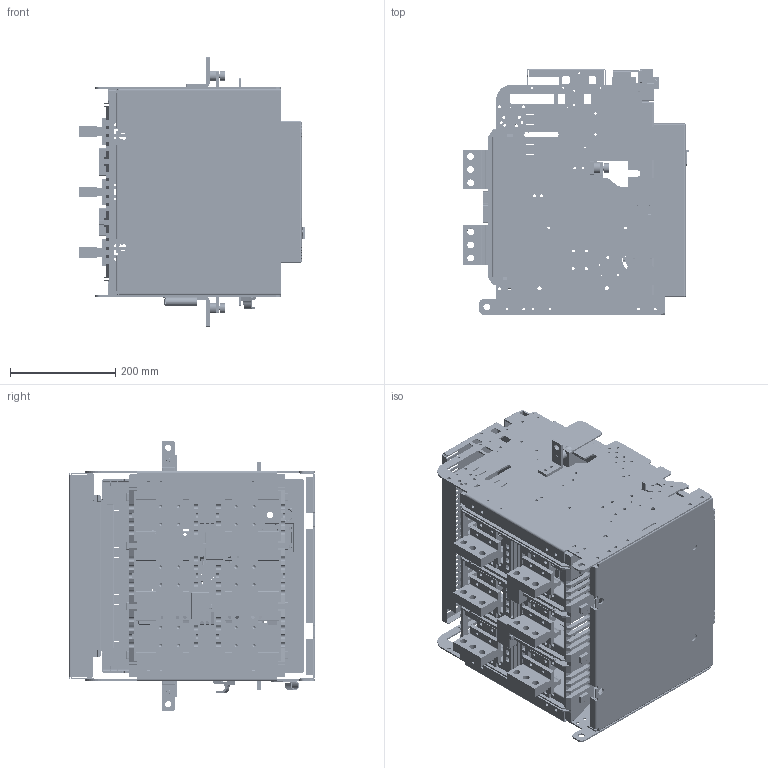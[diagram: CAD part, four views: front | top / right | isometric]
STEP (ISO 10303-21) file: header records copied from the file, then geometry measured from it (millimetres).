
FILE_DESCRIPTION((''),'2;1');
FILE_NAME('B203_253V_ASM','2017-01-31T',('HHI'),(''),'PRO/ENGINEER BY PARAMETRIC TECHNOLOGY CORPORATION, 2012453','PRO/ENGINEER BY PARAMETRIC TECHNOLOGY CORPORATION, 2012453','');
FILE_SCHEMA(('CONFIG_CONTROL_DESIGN'));
Products named in the file (33): MAIN_SC-DR-FRAME_L; MAIN_SC_DR_BASE_403; MAIN_SC-DR-FRAME_R; SC_CO_JACK_DFC_403; MAIN_SC-CONTROL_JACK-CRADLE; SC-MAIN-TERMINAL-MOLD-403; ISOLATING_CONDUCTOR_20_25HV_L75; SC_CONTROL_JACK; SC_MAIN_FRONT_COVER40_2011_1215; SC_DR_DEVICE_COVER2; SC_DR_LOCK_PUSH_BUTTON; SC_MANUAL_POSITION_LOCK; SC-DR-INDICATOR_SAMPLE; DR_COVER_SAMPLE_ASM; MAIN_SC-OCR-COVER-U-DD-RE; MAIN_SC-OCR-PROTECTION-COVER-RE; MAIN_SC-OCR-LOWER-COVER-RE; OCR_COVER_SAMPLE_ASM; SC-CLOSE-BUTTON; SC-OPEN-BUTTON; N_CHARGE_HANDLE; COVER403_ASSY_ASM; U_ARC_SHIELD_403; SC-FIX-BLOCK-L; FIX_BODY_EXTRA; FIX_BLOCK_CRADLE; BOLT; FIX_BODY_ASM_L_ASM; SC-FIX-BLOCK-R; SC-FIX-BLOCK-SUP-R; FIX_BODY_ASM_R_ASM; TERMINAL_B20_B25; B203_253V_ASM
Assembly tree (44 placements, depth 4):
  B203_253V_ASM
    MAIN_SC-DR-FRAME_L
    MAIN_SC_DR_BASE_403
    MAIN_SC-DR-FRAME_R
    SC_CO_JACK_DFC_403
    MAIN_SC-CONTROL_JACK-CRADLE
    SC-MAIN-TERMINAL-MOLD-403
    ISOLATING_CONDUCTOR_20_25HV_L75  x6
    COVER403_ASSY_ASM
      SC_CONTROL_JACK
      SC_MAIN_FRONT_COVER40_2011_1215
      DR_COVER_SAMPLE_ASM
        SC_DR_DEVICE_COVER2
        SC_DR_LOCK_PUSH_BUTTON
        SC_MANUAL_POSITION_LOCK
        SC-DR-INDICATOR_SAMPLE
      OCR_COVER_SAMPLE_ASM
        MAIN_SC-OCR-COVER-U-DD-RE
        MAIN_SC-OCR-PROTECTION-COVER-RE
        MAIN_SC-OCR-LOWER-COVER-RE
      SC-CLOSE-BUTTON
      SC-OPEN-BUTTON
      N_CHARGE_HANDLE
    U_ARC_SHIELD_403
    FIX_BODY_ASM_L_ASM
      SC-FIX-BLOCK-L
      FIX_BODY_EXTRA
      FIX_BLOCK_CRADLE
      BOLT
    FIX_BODY_ASM_R_ASM
      SC-FIX-BLOCK-R
      SC-FIX-BLOCK-SUP-R
      FIX_BLOCK_CRADLE
      BOLT
    TERMINAL_B20_B25  x6
Bounding box: 430.03 x 466.35 x 511 mm (x, y, z)
Volume: 5757874.4 mm3; surface area: 3366804.4 mm2
Topology: 41 solids, 43 shells, 14315 faces, 41940 edges, 27360 vertices
Faces by surface type: plane 11072, cylinder 2685, extrusion 181, torus 172, cone 85, bspline 62, sphere 58
Entity records: 461084 total; most frequent: CARTESIAN_POINT 89789, ORIENTED_EDGE 80628, DIRECTION 71772, EDGE_CURVE 40314, VECTOR 34962, LINE 34781, VERTEX_POINT 26328, AXIS2_PLACEMENT_3D 18405
